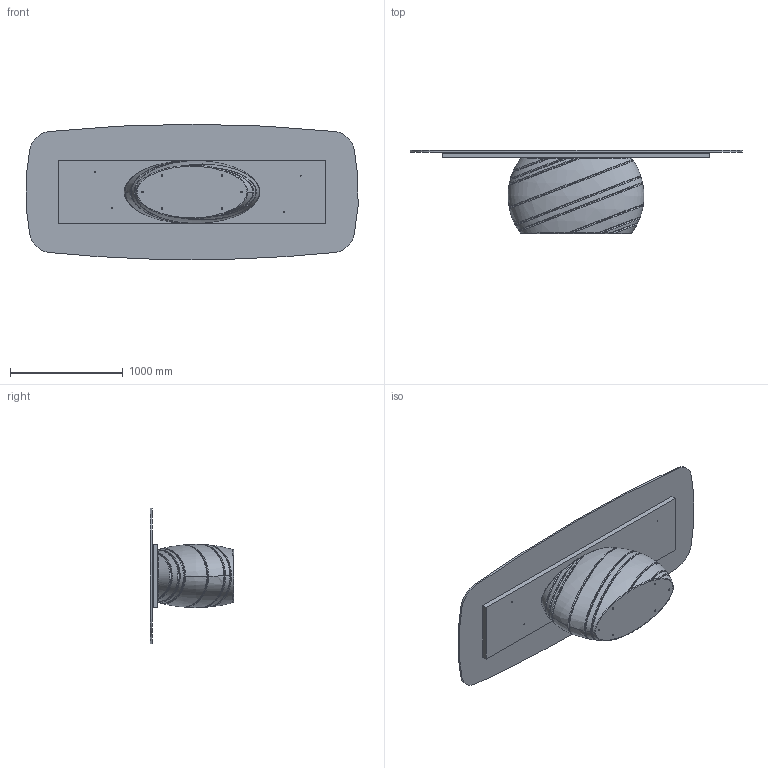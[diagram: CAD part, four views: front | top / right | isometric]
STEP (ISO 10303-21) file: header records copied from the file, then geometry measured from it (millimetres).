
FILE_DESCRIPTION (( 'STEP AP203' ), '1' );
FILE_NAME ('GI50G.STEP', '2025-04-22T14:18:09', ( '' ), ( '' ), 'SwSTEP 2.0', 'SolidWorks 2022', '' );
FILE_SCHEMA (( 'CONFIG_CONTROL_DESIGN' ));
Length unit declared in the file: millimetre
Products named in the file (3): GIB000xxx-00-BASE GIOVE X 300; GI50G; PIANI_modello 3D x web_Cristallo 295x120 sag
Assembly tree (2 placements, depth 2):
  GI50G
    PIANI_modello 3D x web_Cristallo 295x120 sag
    GIB000xxx-00-BASE GIOVE X 300
Bounding box: 2941.59 x 737 x 1200 mm (x, y, z)
Volume: 419374470.2 mm3; surface area: 12387296.2 mm2
Topology: 3 solids, 3 shells, 153 faces, 372 edges, 240 vertices
Faces by surface type: bspline 53, cylinder 45, plane 31, cone 24
Entity records: 37129 total; most frequent: CARTESIAN_POINT 33593, ORIENTED_EDGE 744, DIRECTION 555, EDGE_CURVE 372, VERTEX_POINT 240, AXIS2_PLACEMENT_3D 231, EDGE_LOOP 180, B_SPLINE_CURVE_WITH_KNOTS 153
